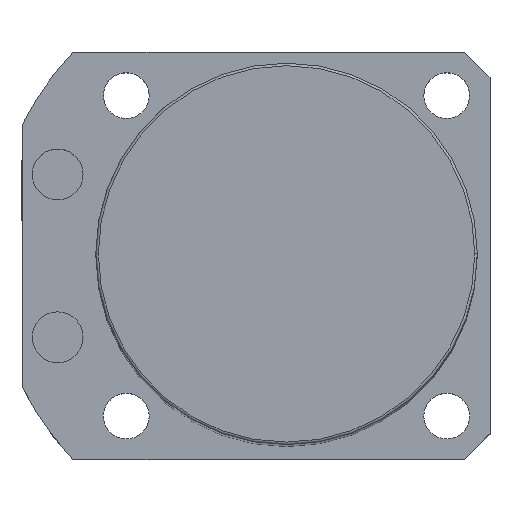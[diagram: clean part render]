
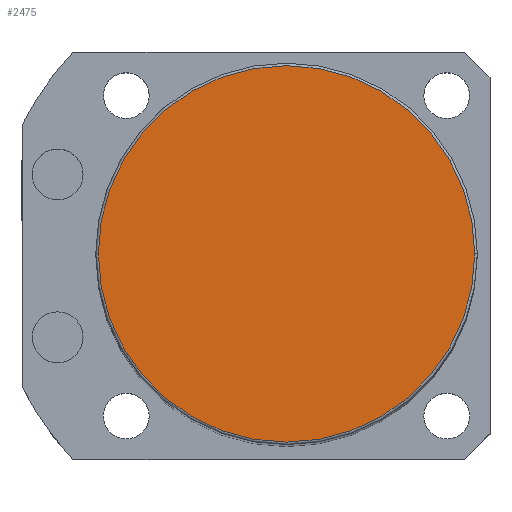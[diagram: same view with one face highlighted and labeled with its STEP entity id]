
A CAD part, top view. The second image highlights one B-rep face of the part: STEP entity #2475.
In plain terms, the highlighted planar face has unit normal (0, 0, 1).
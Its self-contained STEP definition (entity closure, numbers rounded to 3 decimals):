
#30 = EDGE_LOOP ( 'NONE', ( #477, #274 ) ) ;
#149 = AXIS2_PLACEMENT_3D ( 'NONE', #1253, #1893, #1695 ) ;
#274 = ORIENTED_EDGE ( 'NONE', *, *, #2141, .T. ) ;
#328 = FACE_OUTER_BOUND ( 'NONE', #30, .T. ) ;
#354 = PLANE ( 'NONE',  #149 ) ;
#406 = CARTESIAN_POINT ( 'NONE',  ( 37., 0., 235.5 ) ) ;
#417 = CARTESIAN_POINT ( 'NONE',  ( 0., 0., 235.5 ) ) ;
#477 = ORIENTED_EDGE ( 'NONE', *, *, #2093, .T. ) ;
#1130 = CARTESIAN_POINT ( 'NONE',  ( -37., 0., 235.5 ) ) ;
#1221 = VERTEX_POINT ( 'NONE', #1130 ) ;
#1253 = CARTESIAN_POINT ( 'NONE',  ( 0., 0., 235.5 ) ) ;
#1517 = DIRECTION ( 'NONE',  ( 1., 0., 0. ) ) ;
#1523 = CARTESIAN_POINT ( 'NONE',  ( 0., 0., 235.5 ) ) ;
#1630 = AXIS2_PLACEMENT_3D ( 'NONE', #417, #2369, #1718 ) ;
#1695 = DIRECTION ( 'NONE',  ( 1., 0., 0. ) ) ;
#1718 = DIRECTION ( 'NONE',  ( 1., 0., 0. ) ) ;
#1880 = CIRCLE ( 'NONE', #1630, 37. ) ;
#1893 = DIRECTION ( 'NONE',  ( 0., 0., 1. ) ) ;
#2093 = EDGE_CURVE ( 'NONE', #2754, #1221, #1880, .T. ) ;
#2141 = EDGE_CURVE ( 'NONE', #1221, #2754, #2537, .T. ) ;
#2369 = DIRECTION ( 'NONE',  ( 0., 0., 1. ) ) ;
#2382 = DIRECTION ( 'NONE',  ( 0., 0., 1. ) ) ;
#2475 = ADVANCED_FACE ( 'NONE', ( #328 ), #354, .T. ) ;
#2537 = CIRCLE ( 'NONE', #2625, 37. ) ;
#2625 = AXIS2_PLACEMENT_3D ( 'NONE', #1523, #2382, #1517 ) ;
#2754 = VERTEX_POINT ( 'NONE', #406 ) ;
